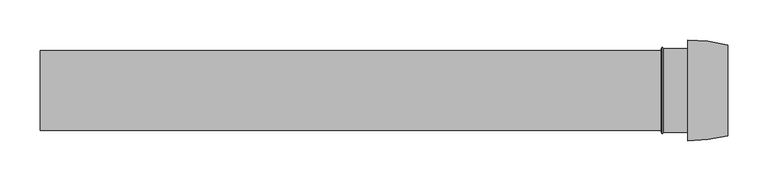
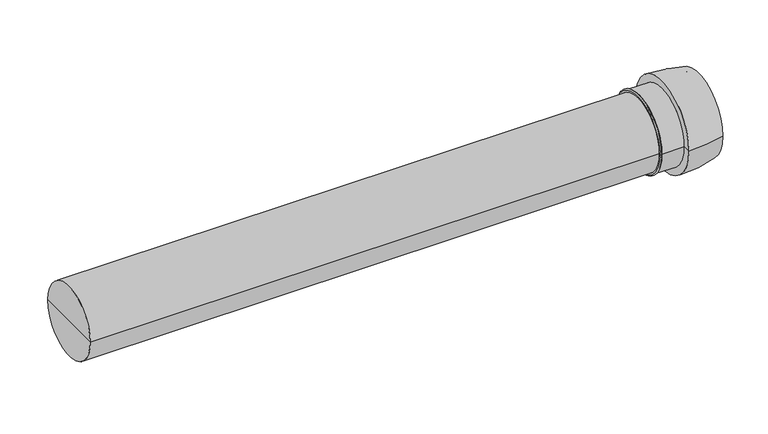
"""IFC4 building model written with IfcOpenShell, lengths in millimetres: duct segment geometry, NLRS_57_AIR_DUF_Easysafe verl pijp PP_M&G : Easysafe verlengpijp."""

from ifc_helpers import new_model, si_unit, point, frame, origin, place, context, project, spatial, polyline, circle_curve, ellipse_curve, trimmed, source, transform, mapped, element, save
from ifc_brep_helpers import plane_surface, cylinder_surface, revolved_surface, advanced_brep


def duct_segment_3ec61917(model_context):
    return source(origin(), model_context, "Body", "AdvancedBrep", [
        advanced_brep(
        [(0.0, 0.0, 0.0), (0.0, 50.0, 0.0), (0.0, -50.0, 0.0), (807.1097122, -63.0, 0.0), (807.1097122, 63.0, 0.0), (857.1097122, 56.6491673, 0.0), (857.1097122, -56.6491673, 0.0), (807.1097122, -52.5, 0.0), (807.1097122, 52.5, 0.0), (777.1097122, -52.5, 0.0), (777.1097122, 52.5, 0.0), (774.1097122, 50.0, 0.0), (774.1097122, -50.0, 0.0), (857.1097122, 50.0, 0.0), (857.1097122, -50.0, 0.0), (775.6097122, -54.0, 0.0), (775.6097122, 54.0, 0.0), (774.1097122, -52.5, 0.0), (774.1097122, 52.5, 0.0), (807.1097122, -50.0, 0.0), (807.1097122, 50.0, 0.0), (807.1097122, 0.0, 0.0)],
        [
            (0, 1),
            (1, 2, circle_curve(frame((0.0, 0.0, 0.0), z_axis=(-1.0, 0.0, 0.0), x_axis=(0.0, 1.0, 0.0)), 50.0)),
            (2, 0),
            (2, 1, circle_curve(frame((0.0, 0.0, 0.0), z_axis=(-1.0, 0.0, 0.0), x_axis=(0.0, 1.0, 0.0)), 50.0)),
            (3, 4, circle_curve(frame((807.1097122, 0.0, 0.0), z_axis=(1.0, 0.0, 0.0), x_axis=(0.0, 1.0, 0.0)), 63.0)),
            (4, 5, circle_curve(frame((807.1097122, -137.0, 0.0), z_axis=(0.0, 0.0, -1.0), x_axis=(1.0, 0.0, 0.0)), 200.0)),
            (5, 6, circle_curve(frame((857.1097122, 0.0, 0.0), z_axis=(-1.0, 0.0, 0.0), x_axis=(0.0, 1.0, 0.0)), 56.6491673)),
            (6, 3, circle_curve(frame((807.1097122, 137.0, 0.0), z_axis=(0.0, 0.0, -1.0), x_axis=(1.0, 0.0, 0.0)), 200.0)),
            (4, 3, circle_curve(frame((807.1097122, 0.0, 0.0), z_axis=(1.0, 0.0, 0.0), x_axis=(0.0, 1.0, 0.0)), 63.0)),
            (6, 5, circle_curve(frame((857.1097122, 0.0, 0.0), z_axis=(-1.0, 0.0, 0.0), x_axis=(0.0, 1.0, 0.0)), 56.6491673)),
            (7, 8, circle_curve(frame((807.1097122, 0.0, 0.0), z_axis=(1.0, 0.0, 0.0), x_axis=(0.0, 1.0, 0.0)), 52.5)),
            (8, 4),
            (3, 7),
            (8, 7, circle_curve(frame((807.1097122, 0.0, 0.0), z_axis=(1.0, 0.0, 0.0), x_axis=(0.0, 1.0, 0.0)), 52.5)),
            (9, 10, circle_curve(frame((777.1097122, 0.0, 0.0), z_axis=(1.0, 0.0, 0.0), x_axis=(0.0, 1.0, 0.0)), 52.5)),
            (10, 8),
            (7, 9),
            (10, 9, circle_curve(frame((777.1097122, 0.0, 0.0), z_axis=(1.0, 0.0, 0.0), x_axis=(0.0, 1.0, 0.0)), 52.5)),
            (1, 11),
            (11, 12, circle_curve(frame((774.1097122, 0.0, 0.0), z_axis=(-1.0, 0.0, 0.0), x_axis=(0.0, 1.0, 0.0)), 50.0)),
            (12, 2),
            (12, 11, circle_curve(frame((774.1097122, 0.0, 0.0), z_axis=(-1.0, 0.0, 0.0), x_axis=(0.0, 1.0, 0.0)), 50.0)),
            (5, 13),
            (13, 14, circle_curve(frame((857.1097122, 0.0, 0.0), z_axis=(-1.0, 0.0, 0.0), x_axis=(0.0, 1.0, 0.0)), 50.0)),
            (14, 6),
            (14, 13, circle_curve(frame((857.1097122, 0.0, 0.0), z_axis=(-1.0, 0.0, 0.0), x_axis=(0.0, 1.0, 0.0)), 50.0)),
            (15, 16, circle_curve(frame((775.6097122, 0.0, 0.0), z_axis=(1.0, 0.0, 0.0), x_axis=(0.0, 1.0, 0.0)), 54.0)),
            (16, 10),
            (9, 15),
            (16, 15, circle_curve(frame((775.6097122, 0.0, 0.0), z_axis=(1.0, 0.0, 0.0), x_axis=(0.0, 1.0, 0.0)), 54.0)),
            (17, 18, circle_curve(frame((774.1097122, 0.0, 0.0), z_axis=(1.0, 0.0, 0.0), x_axis=(0.0, 1.0, 0.0)), 52.5)),
            (18, 16),
            (15, 17),
            (18, 17, circle_curve(frame((774.1097122, 0.0, 0.0), z_axis=(1.0, 0.0, 0.0), x_axis=(0.0, 1.0, 0.0)), 52.5)),
            (11, 18),
            (17, 12),
            (19, 20, circle_curve(frame((807.1097122, 0.0, 0.0), z_axis=(1.0, 0.0, 0.0), x_axis=(0.0, 1.0, 0.0)), 50.0)),
            (20, 21),
            (21, 19),
            (20, 19, circle_curve(frame((807.1097122, 0.0, 0.0), z_axis=(1.0, 0.0, 0.0), x_axis=(0.0, 1.0, 0.0)), 50.0)),
            (13, 20),
            (19, 14),
        ],
        [
            plane_surface(frame((0.0, 0.0, 0.0), z_axis=(-1.0, 0.0, 0.0), x_axis=(0.0, 1.0, 0.0))),
            revolved_surface(trimmed(ellipse_curve(frame((807.1097122, -137.0, 0.0), z_axis=(0.0, 0.0, 1.0), x_axis=(1.0, 0.0, 0.0)), 200.0, 200.0), [point((857.1097122, 56.6491673, 0.0))], [point((807.1097122, 63.0, 0.0))], True, "CARTESIAN"), (-500.0, 0.0, 0.0), (-1.0, 0.0, 0.0)),
            plane_surface(frame((807.1097122, 0.0, 0.0), z_axis=(-1.0, 0.0, 0.0), x_axis=(0.0, 1.0, 0.0))),
            cylinder_surface(frame((-500.0, 0.0, 0.0), z_axis=(-1.0, 0.0, 0.0), x_axis=(0.0, 1.0, 0.0)), 52.5),
            cylinder_surface(frame((-500.0, 0.0, 0.0), z_axis=(-1.0, 0.0, 0.0), x_axis=(0.0, 1.0, 0.0)), 50.0),
            plane_surface(frame((857.1097122, 0.0, 0.0), z_axis=(1.0, 0.0, 0.0), x_axis=(0.0, 1.0, 0.0))),
            revolved_surface(polyline([(777.1097122, 52.5, 0.0), (775.6097122, 54.0, 0.0)]), (-500.0, 0.0, 0.0), (-1.0, 0.0, 0.0)),
            revolved_surface(polyline([(775.6097122, 54.0, 0.0), (774.1097122, 52.5, 0.0)]), (-500.0, 0.0, 0.0), (-1.0, 0.0, 0.0)),
            plane_surface(frame((774.1097122, 0.0, 0.0), z_axis=(-1.0, 0.0, 0.0), x_axis=(0.0, 1.0, 0.0))),
            plane_surface(frame((807.1097122, 0.0, 0.0), z_axis=(1.0, 0.0, 0.0), x_axis=(0.0, 1.0, 0.0))),
            revolved_surface(polyline([(807.1097122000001, 50.0, 0.0), (857.1097122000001, 50.0, 0.0)]), (-500.0, 0.0, 0.0), (-1.0, 0.0, 0.0)),
        ],
        [
            (0, [[1, 2, 3]]),
            (0, [[-3, 4, -1]]),
            (1, [[5, 6, 7, 8]]),
            (1, [[9, -8, 10, -6]]),
            (2, [[11, 12, -5, 13]]),
            (2, [[14, -13, -9, -12]]),
            (3, [[15, 16, -11, 17]]),
            (3, [[18, -17, -14, -16]]),
            (4, [[-2, 19, 20, 21]]),
            (4, [[-4, -21, 22, -19]]),
            (5, [[-7, 23, 24, 25]]),
            (5, [[-10, -25, 26, -23]]),
            (6, [[27, 28, -15, 29]]),
            (6, [[30, -29, -18, -28]]),
            (7, [[31, 32, -27, 33]]),
            (7, [[34, -33, -30, -32]]),
            (8, [[-20, 35, -31, 36]]),
            (8, [[-22, -36, -34, -35]]),
            (9, [[37, 38, 39]]),
            (9, [[40, -39, -38]]),
            (10, [[-24, 41, -37, 42]]),
            (10, [[-26, -42, -40, -41]]),
        ],
    ),
    ])


if __name__ == "__main__":
    model = new_model("IFC4")
    model_context = context("Model", 3, world=origin())
    ifc_project = project(units=[si_unit("LENGTHUNIT", "METRE", prefix="MILLI")], contexts=[model_context])
    site = spatial("IfcSite", under=ifc_project)
    building = spatial("IfcBuilding", under=site)
    placement = place(None, origin())
    duct_segment_shape = duct_segment_3ec61917(model_context)
    element("IfcDuctSegment", 1, ObjectType="NLRS_57_AIR_DUF_Easysafe verl pijp PP_M&G : Easysafe verlengpijp", at=placement, inside=building, context=model_context, shape_type="MappedRepresentation", body=[
        mapped(duct_segment_shape, transform((0.0, 0.0, 0.0), x_axis=(1.0, 0.0, 0.0), y_axis=(0.0, 1.0, 0.0), z_axis=(0.0, 0.0, 1.0))),
    ])
    save(model, "model.ifc")
